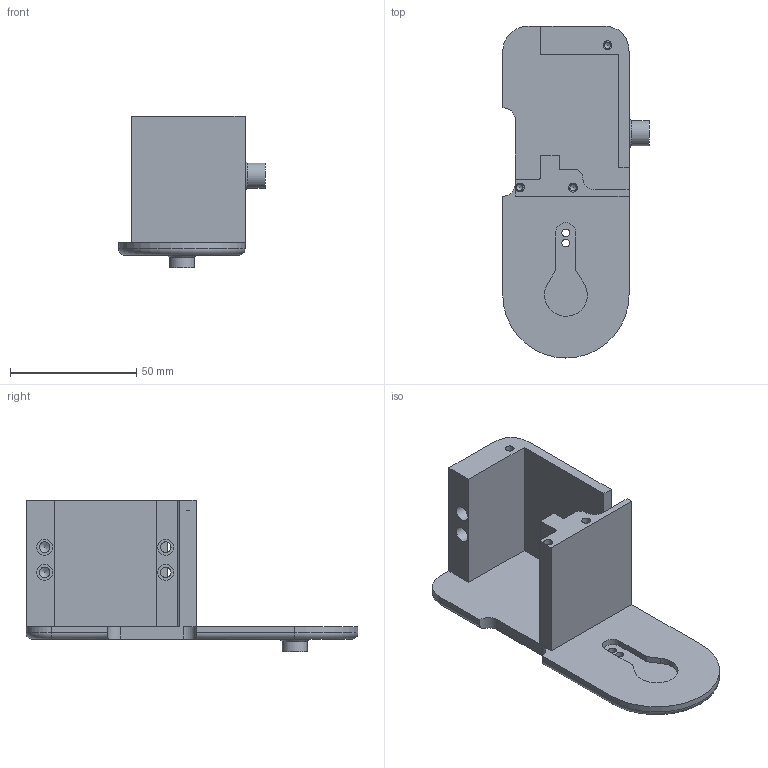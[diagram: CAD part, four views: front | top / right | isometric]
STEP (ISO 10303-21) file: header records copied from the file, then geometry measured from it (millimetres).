
FILE_DESCRIPTION(/* description */ (''),/* implementation_level */ '2;1');
FILE_NAME(/* name */ 'left_upper_bottom.step',/* time_stamp */ '2026-06-13T15:32:05-06:00',/* author */ (''),/* organization */ (''),/* preprocessor_version */ 'ST-DEVELOPER v20.1',/* originating_system */ 'Autodesk Translation Framework v15.8.0.0',/* authorisation */ '');
FILE_SCHEMA (('AUTOMOTIVE_DESIGN { 1 0 10303 214 3 1 1 }'));
Length unit declared in the file: millimetre
Products named in the file (1): left_upper_bottom
Bounding box: 58 x 131.3 x 60 mm (x, y, z)
Volume: 72892.5 mm3; surface area: 29940.6 mm2
Topology: 1 solids, 1 shells, 86 faces, 213 edges, 137 vertices
Faces by surface type: plane 39, cylinder 34, cone 9, torus 4
Full cylindrical faces by diameter (mm): 2.5 x3, 3.1 x2, 3.5 x3, 4.166 x4, 6.3 x4, 9.9 x2
Entity records: 2645 total; most frequent: CARTESIAN_POINT 514, DIRECTION 447, ORIENTED_EDGE 416, EDGE_CURVE 208, AXIS2_PLACEMENT_3D 162, VERTEX_POINT 137, LINE 123, VECTOR 123
